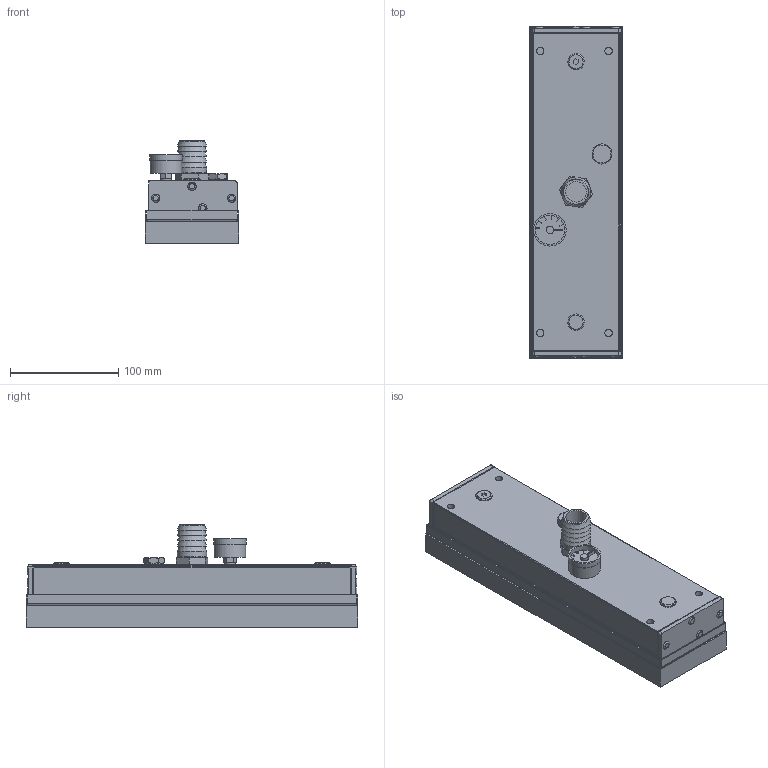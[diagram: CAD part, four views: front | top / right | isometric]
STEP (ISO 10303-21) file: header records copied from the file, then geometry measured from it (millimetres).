
FILE_DESCRIPTION (( 'STEP AP203' ), '1' );
FILE_NAME ('9671 030 014.STEP', '2014-03-12T11:31:47', ( '' ), ( '' ), 'SwSTEP 2.0', 'SolidWorks 2014', '' );
FILE_SCHEMA (( 'CONFIG_CONTROL_DESIGN' ));
Length unit declared in the file: millimetre
Products named in the file (1): 9671 030 014
Bounding box: 86 x 306 x 94.6 mm (x, y, z)
Volume: 1326908.3 mm3; surface area: 160562.1 mm2
Topology: 1 solids, 1 shells, 338 faces, 715 edges, 446 vertices
Faces by surface type: plane 208, cylinder 80, cone 21, torus 15, bspline 14
Full cylindrical faces by diameter (mm): 6.8 x4, 9.77 x1, 15 x22, 18 x1, 18.9 x1, 20 x10, 26.96 x1, 27 x1, 29 x1, 30 x1
Entity records: 9553 total; most frequent: CARTESIAN_POINT 2509, DIRECTION 1444, ORIENTED_EDGE 1286, EDGE_CURVE 643, AXIS2_PLACEMENT_3D 534, EDGE_LOOP 466, VERTEX_POINT 435, FACE_OUTER_BOUND 390
